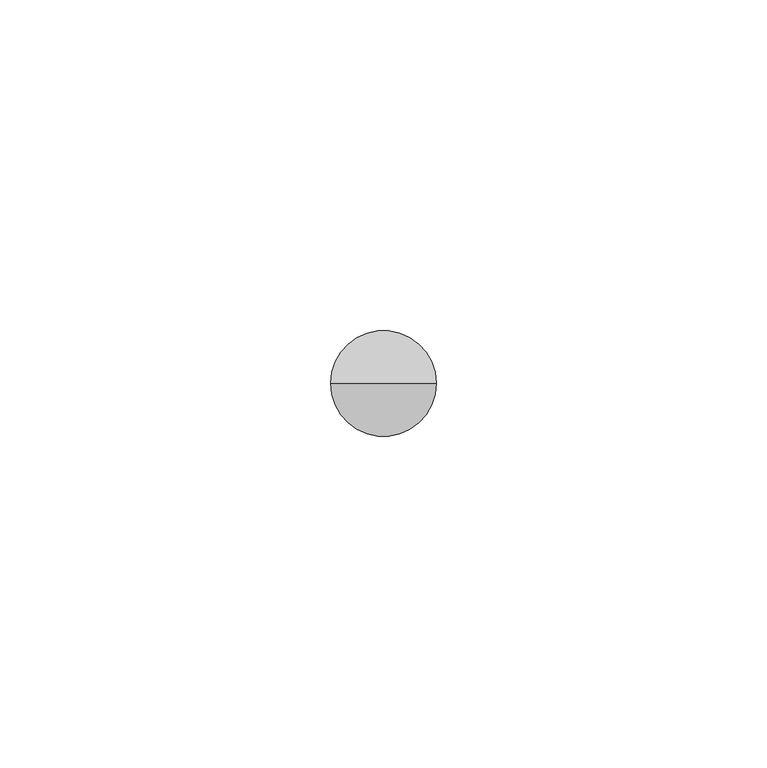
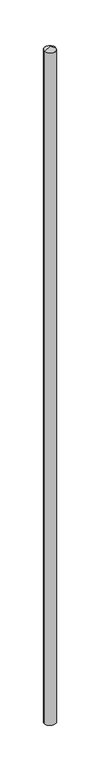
"""IFC4 building model written with IfcOpenShell, lengths in millimetres: proxy geometry, КНС_СтерженьМолниеприемный_DKC : NL1000_Алюминий_1м."""

import ifcopenshell
import ifcopenshell.guid

model = None  # the IFC model being written
_history = None  # IfcOwnerHistory: only IFC2X3 demands one
_inside = {}  # id of a spatial element -> (the spatial element, [elements in it])
_under = {}  # id of a project, library or spatial element -> (it, [spatial elements below it])
_declared = {}  # id of a project -> (the project, [libraries it declares])
_typed = {}  # id of a type object -> (the type object, [elements of that type])
_made_of = {}  # id of a material, layer set ... -> (it, [elements and type objects made of it])


def new_model(schema):
    """Start an empty IFC model of exactly this schema.

    Asked for "IFC4X3", IfcOpenShell would pick the latest addendum, in which some entities
    have other attributes; the version numbers below select the first issue.
    IFC2X3 requires an IfcOwnerHistory on every rooted entity: one is made here for all.
    """
    global model, _history
    if schema == "IFC4X3":
        model = ifcopenshell.file(schema_version=(4, 3, 0, 0))
    else:
        model = ifcopenshell.file(schema=schema)
    _inside.clear()
    _under.clear()
    _declared.clear()
    _typed.clear()
    _made_of.clear()
    _history = None
    if model.schema == "IFC2X3":
        org = make("IfcOrganization", Name="unknown")
        user = make(
            "IfcPersonAndOrganization",
            ThePerson=make("IfcPerson", FamilyName="unknown"),
            TheOrganization=org,
        )
        app = make(
            "IfcApplication",
            ApplicationDeveloper=org,
            Version="unknown",
            ApplicationFullName="unknown",
            ApplicationIdentifier="unknown",
        )
        _history = make(
            "IfcOwnerHistory",
            OwningUser=user,
            OwningApplication=app,
            ChangeAction="ADDED",
            CreationDate=0,
        )
    return model


def make(cls, **values):
    """One entity of the class cls with the attributes given. An attribute that is None is left unset."""
    return model.create_entity(
        cls, **{name: value for name, value in values.items() if value is not None}
    )


def rooted(cls, **values):
    """An entity with a GlobalId (a new one), such as an element, a storey or a relation."""
    return make(cls, GlobalId=ifcopenshell.guid.new(), OwnerHistory=_history, **values)


def si_unit(unit_type, name, prefix=None):
    """IfcSIUnit, for example si_unit("LENGTHUNIT", "METRE", prefix="MILLI")."""
    return make("IfcSIUnit", UnitType=unit_type, Prefix=prefix, Name=name)


def assignment(units):
    """IfcUnitAssignment: the units of a project."""
    return None if units is None else make("IfcUnitAssignment", Units=units)


def point(xyz):
    """IfcCartesianPoint."""
    return None if xyz is None else make("IfcCartesianPoint", Coordinates=xyz)


def direction(xyz):
    """IfcDirection."""
    return None if xyz is None else make("IfcDirection", DirectionRatios=xyz)


def frame(location, z_axis=None, x_axis=None):
    """IfcAxis2Placement3D, a coordinate frame: its origin and axes. An axis left out is left unset."""
    return make(
        "IfcAxis2Placement3D",
        Location=point(location),
        Axis=direction(z_axis),
        RefDirection=direction(x_axis),
    )


def origin():
    """The frame at (0, 0, 0) with its axes left unset."""
    return frame((0.0, 0.0, 0.0))


def origin_with_axes():
    """The frame at (0, 0, 0) with the z axis (0, 0, 1) and the x axis (1, 0, 0) written out."""
    return frame((0.0, 0.0, 0.0), z_axis=(0.0, 0.0, 1.0), x_axis=(1.0, 0.0, 0.0))


def place(relative_to, where):
    """IfcLocalPlacement: puts the frame where relative to a parent placement (None: the world)."""
    return make(
        "IfcLocalPlacement", PlacementRelTo=relative_to, RelativePlacement=where
    )


def context(
    kind, dimensions, precision=None, world=None, true_north=None, identifier=None
):
    """IfcGeometricRepresentationContext, for example the 3D "Model" context."""
    return make(
        "IfcGeometricRepresentationContext",
        ContextIdentifier=identifier,
        ContextType=kind,
        CoordinateSpaceDimension=dimensions,
        Precision=precision,
        WorldCoordinateSystem=world,
        TrueNorth=true_north,
    )


def project(units=None, contexts=None):
    """IfcProject with its units and contexts."""
    return rooted(
        "IfcProject",
        Name="project",
        RepresentationContexts=contexts,
        UnitsInContext=assignment(units),
    )


def spatial(cls, under=None, at=None, **own):
    """A site, building, storey or space (cls), placed at a placement, below another one or the project."""
    s = rooted(cls, ObjectPlacement=at, **own)
    if under is not None:
        _under.setdefault(under.id(), (under, []))[1].append(s)
    return s


def polyline(points):
    """IfcPolyline through the points."""
    return make("IfcPolyline", Points=[point(p) for p in points])


def circle_curve(where, radius):
    """IfcCircle in the frame where."""
    return make("IfcCircle", Position=where, Radius=radius)


def shape(context_of_items, identifier, shape_type, items):
    """IfcShapeRepresentation: the items that make up one representation, for example the "Body"."""
    return make(
        "IfcShapeRepresentation",
        ContextOfItems=context_of_items,
        RepresentationIdentifier=identifier,
        RepresentationType=shape_type,
        Items=items,
    )


def source(mapping_origin, context_of_items, identifier, shape_type, items):
    """IfcRepresentationMap: a shape defined once, which mapped items show again and again."""
    return make(
        "IfcRepresentationMap",
        MappingOrigin=mapping_origin,
        MappedRepresentation=shape(context_of_items, identifier, shape_type, items),
    )


def transform(
    local_origin,
    x_axis=None,
    y_axis=None,
    z_axis=None,
    scale=None,
    scale2=None,
    scale3=None,
    uniform=True,
):
    """IfcCartesianTransformationOperator3D, or its non-uniform kind. x_axis, y_axis, z_axis: its Axis1, 2, 3."""
    if uniform:
        return make(
            "IfcCartesianTransformationOperator3D",
            Axis1=direction(x_axis),
            Axis2=direction(y_axis),
            LocalOrigin=point(local_origin),
            Scale=scale,
            Axis3=direction(z_axis),
        )
    return make(
        "IfcCartesianTransformationOperator3DnonUniform",
        Axis1=direction(x_axis),
        Axis2=direction(y_axis),
        LocalOrigin=point(local_origin),
        Scale=scale,
        Axis3=direction(z_axis),
        Scale2=scale2,
        Scale3=scale3,
    )


def mapped(mapping_source, mapping_target):
    """IfcMappedItem: shows the shape of a source again, moved by a transform."""
    return make(
        "IfcMappedItem", MappingSource=mapping_source, MappingTarget=mapping_target
    )


def made_of(thing, what):
    """Note that an element or type object is made of a material, layer set ...; save() writes the relation."""
    if what is not None:
        _made_of.setdefault(what.id(), (what, []))[1].append(thing)
    return thing


def element(
    cls,
    number,
    at=None,
    inside=None,
    cuts=None,
    type_object=None,
    material=None,
    context=None,
    identifier="Body",
    shape_type=None,
    held_by="IfcProductDefinitionShape",
    body=None,
    shapes=None,
    **own,
):
    """One element of the class cls, such as IfcWall. Its Tag is "e" and its number.

    at: its placement. inside: the storey or other place that contains it. cuts: it is an
    opening in that element (IfcRelVoidsElement). A single representation is given by context,
    identifier, shape_type and body (its items); several are given by shapes. held_by: the class
    of the entity that holds the representations. save() writes the other relations.
    """
    e = rooted(cls, Tag="e%d" % number, ObjectPlacement=at, **own)
    if body is not None:
        shapes = [shape(context, identifier, shape_type, body)]
    if shapes is not None:
        e.Representation = make(held_by, Representations=shapes)
    if inside is not None:
        _inside.setdefault(inside.id(), (inside, []))[1].append(e)
    if cuts is not None:
        rooted(
            "IfcRelVoidsElement", RelatingBuildingElement=cuts, RelatedOpeningElement=e
        )
    if type_object is not None:
        _typed.setdefault(type_object.id(), (type_object, []))[1].append(e)
    return made_of(e, material)


def aggregate(whole, parts):
    """IfcRelAggregates: a whole, such as a stair, and the parts it consists of."""
    return rooted("IfcRelAggregates", RelatingObject=whole, RelatedObjects=parts)


def save(model, path):
    """Write the relations noted so far, then the file.

    IfcRelAggregates (storeys below a building ...), IfcRelContainedInSpatialStructure (elements
    in a storey), IfcRelDefinesByType, IfcRelAssociatesMaterial and IfcRelDeclares: one each for
    every whole, place, type object, material and project.
    """
    for whole, parts in _under.values():
        aggregate(whole, parts)
    for where, things in _inside.values():
        rooted(
            "IfcRelContainedInSpatialStructure",
            RelatedElements=things,
            RelatingStructure=where,
        )
    for kind, things in _typed.values():
        rooted("IfcRelDefinesByType", RelatedObjects=things, RelatingType=kind)
    for what, things in _made_of.values():
        rooted("IfcRelAssociatesMaterial", RelatedObjects=things, RelatingMaterial=what)
    for by, libraries in _declared.values():
        rooted("IfcRelDeclares", RelatingContext=by, RelatedDefinitions=libraries)
    model.write(path)


def plane_surface(at):
    """IfcPlane: the flat surface through the origin of the frame at, square to its z axis."""
    return make("IfcPlane", Position=at)


def cylinder_surface(at, radius):
    """IfcCylindricalSurface: all points at the distance radius from the z axis of the frame at."""
    return make("IfcCylindricalSurface", Position=at, Radius=radius)


def revolved_surface(curve, axis_point, axis_direction):
    """IfcSurfaceOfRevolution: the curve turned about the line through axis_point along axis_direction."""
    return make(
        "IfcSurfaceOfRevolution",
        SweptCurve=make("IfcArbitraryOpenProfileDef", ProfileType="CURVE", Curve=curve),
        AxisPosition=make("IfcAxis1Placement", Location=point(axis_point), Axis=direction(axis_direction)),
    )


def advanced_brep(points, edges, surfaces, faces):
    """IfcAdvancedBrep: a solid bounded by faces that lie on surfaces and meet in shared edges.

    An edge is (start, end): straight between two places in points (the first is 0);
    or (start, end, curve); or (start, end, curve, False) where it runs against its curve.
    A face is (place in surfaces, loops), or (place, loops, False) where it looks against
    its surface's normal. A loop lists edges by number (the first is 1), with a minus sign
    where the edge is run from its end to its start. The first loop is the outer one.
    """
    corners = [point(p) for p in points]
    vertices = [make("IfcVertexPoint", VertexGeometry=c) for c in corners]
    made = []
    for start, end, *more in edges:
        made.append(
            make(
                "IfcEdgeCurve",
                EdgeStart=vertices[start],
                EdgeEnd=vertices[end],
                EdgeGeometry=more[0] if more else make("IfcPolyline", Points=[corners[start], corners[end]]),
                SameSense=more[1] if len(more) > 1 else True,
            )
        )
    hull = []
    for where, loops, *sense in faces:
        bounds = []
        for j, loop in enumerate(loops):
            ring = [make("IfcOrientedEdge", EdgeElement=made[abs(k) - 1], Orientation=k > 0) for k in loop]
            bounds.append(
                make(
                    "IfcFaceOuterBound" if j == 0 else "IfcFaceBound",
                    Bound=make("IfcEdgeLoop", EdgeList=ring),
                    Orientation=True,
                )
            )
        hull.append(make("IfcAdvancedFace", Bounds=bounds, FaceSurface=surfaces[where], SameSense=sense[0] if sense else True))
    return make("IfcAdvancedBrep", Outer=make("IfcClosedShell", CfsFaces=hull))


def security_devices_e70f869e(model_context):
    return source(origin(), model_context, "Body", "AdvancedBrep", [
        advanced_brep(
        [(-8.0, 0.0, 0.0), (8.0, 0.0, 0.0), (8.0, 0.0, 995.3811978), (-8.0, 0.0, 995.3811978), (0.0, 0.0, 1000.0)],
        [
            (0, 1, circle_curve(frame((0.0, 0.0, 0.0), z_axis=(0.0, 0.0, -1.0), x_axis=(1.0, 0.0, 0.0)), 8.0)),
            (1, 0, circle_curve(frame((0.0, 0.0, 0.0), z_axis=(0.0, 0.0, -1.0), x_axis=(1.0, 0.0, 0.0)), 8.0)),
            (1, 2),
            (2, 3, circle_curve(frame((0.0, 0.0, 995.3811978), z_axis=(0.0, 0.0, -1.0), x_axis=(1.0, 0.0, 0.0)), 8.0)),
            (3, 0),
            (3, 2, circle_curve(frame((0.0, 0.0, 995.3811978), z_axis=(0.0, 0.0, -1.0), x_axis=(1.0, 0.0, 0.0)), 8.0)),
            (3, 4),
            (4, 2),
        ],
        [
            plane_surface(frame((8.0, 0.0, 0.0), z_axis=(0.0, 0.0, -1.0), x_axis=(0.0, -1.0, 0.0))),
            cylinder_surface(origin_with_axes(), 8.0),
            revolved_surface(polyline([(12.9903811, 0.0, 992.5), (0.0, 0.0, 1000.0)]), (0.0, 0.0, 3938.9550208), (0.0, 0.0, 1.0)),
        ],
        [
            (0, [[1, 2]]),
            (1, [[-2, 3, 4, 5]]),
            (1, [[-1, -5, 6, -3]]),
            (2, [[7, 8, -6]]),
            (2, [[-7, -4, -8]]),
        ],
    ),
    ])


if __name__ == "__main__":
    model = new_model("IFC4")
    model_context = context("Model", 3, world=origin())
    ifc_project = project(units=[si_unit("LENGTHUNIT", "METRE", prefix="MILLI")], contexts=[model_context])
    site = spatial("IfcSite", under=ifc_project)
    building = spatial("IfcBuilding", under=site)
    placement = place(None, origin())
    security_devices_shape = security_devices_e70f869e(model_context)
    element("IfcBuildingElementProxy", 1, Name="КНС_СтерженьМолниеприемный_DKC : NL1000_Алюминий_1м", ObjectType="КНС_СтерженьМолниеприемный_DKC : NL1000_Алюминий_1м", at=placement, inside=building, context=model_context, shape_type="MappedRepresentation", body=[
        mapped(security_devices_shape, transform((0.0, 0.0, 0.0), x_axis=(1.0, 0.0, 0.0), y_axis=(0.0, 1.0, 0.0), z_axis=(0.0, 0.0, 1.0))),
    ])
    save(model, "model.ifc")
